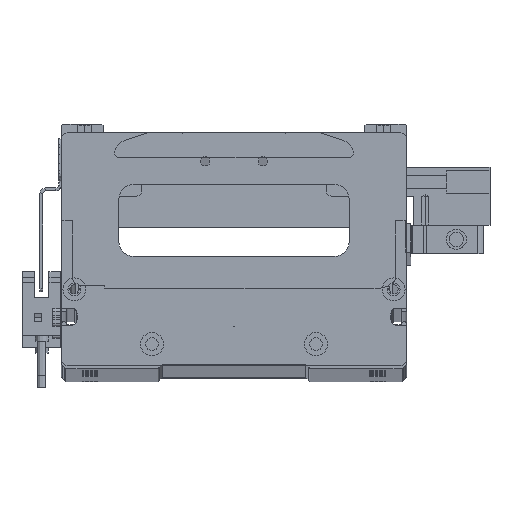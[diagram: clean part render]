
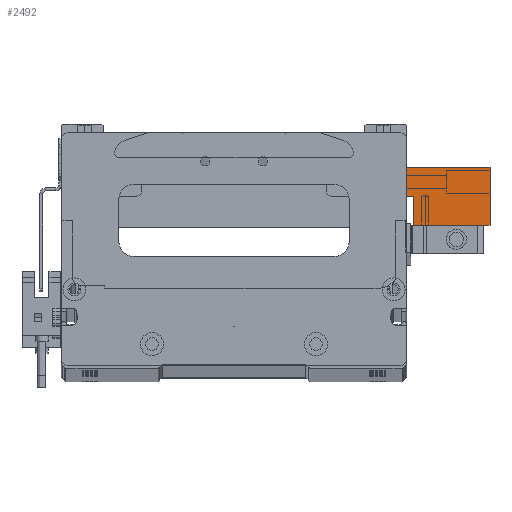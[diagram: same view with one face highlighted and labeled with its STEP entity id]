
A CAD part, top view. The second image highlights one B-rep face of the part: STEP entity #2492.
In plain terms, the highlighted planar face has unit normal (0, 0, 1) as drawn and (-1, 0, 0) by its records, which use the part's own axes.
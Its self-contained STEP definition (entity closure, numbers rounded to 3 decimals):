
#726 = VERTEX_POINT ( 'NONE', #15081 ) ;
#1712 = CARTESIAN_POINT ( 'NONE',  ( -130.52, 35.063, 10. ) ) ;
#1960 = EDGE_CURVE ( 'NONE', #10334, #31500, #5916, .T. ) ;
#2106 = VECTOR ( 'NONE', #7919, 1000. ) ;
#2492 = ADVANCED_FACE ( 'NONE', ( #10337 ), #6637, .F. ) ;
#2596 = VECTOR ( 'NONE', #15806, 1000. ) ;
#3645 = EDGE_CURVE ( 'NONE', #20110, #31500, #19656, .T. ) ;
#5343 = CARTESIAN_POINT ( 'NONE',  ( -130.52, 64.063, 0. ) ) ;
#5419 = LINE ( 'NONE', #28503, #2596 ) ;
#5916 = LINE ( 'NONE', #8644, #32560 ) ;
#6637 = PLANE ( 'NONE',  #32211 ) ;
#7919 = DIRECTION ( 'NONE',  ( 0., -1., 0. ) ) ;
#8134 = VECTOR ( 'NONE', #9036, 1000. ) ;
#8644 = CARTESIAN_POINT ( 'NONE',  ( -130.52, 64.063, 20. ) ) ;
#9036 = DIRECTION ( 'NONE',  ( 0., 0., -1. ) ) ;
#9637 = DIRECTION ( 'NONE',  ( 0., 0., 1. ) ) ;
#9762 = LINE ( 'NONE', #5343, #2106 ) ;
#10334 = VERTEX_POINT ( 'NONE', #29869 ) ;
#10337 = FACE_OUTER_BOUND ( 'NONE', #30271, .T. ) ;
#10883 = ORIENTED_EDGE ( 'NONE', *, *, #22411, .T. ) ;
#12911 = VECTOR ( 'NONE', #32085, 1000. ) ;
#14342 = CARTESIAN_POINT ( 'NONE',  ( -130.52, 35.063, 20. ) ) ;
#15077 = CARTESIAN_POINT ( 'NONE',  ( -130.52, 37.563, 10. ) ) ;
#15081 = CARTESIAN_POINT ( 'NONE',  ( -130.52, 35.063, 0. ) ) ;
#15806 = DIRECTION ( 'NONE',  ( 0., -1., 0. ) ) ;
#16249 = CARTESIAN_POINT ( 'NONE',  ( -130.52, 37.563, 20. ) ) ;
#16569 = LINE ( 'NONE', #27024, #12911 ) ;
#16618 = ORIENTED_EDGE ( 'NONE', *, *, #21110, .F. ) ;
#17045 = DIRECTION ( 'NONE',  ( 0., 0., -1. ) ) ;
#17314 = ORIENTED_EDGE ( 'NONE', *, *, #33144, .T. ) ;
#18195 = ORIENTED_EDGE ( 'NONE', *, *, #3645, .T. ) ;
#18832 = DIRECTION ( 'NONE',  ( 0., -1., 0. ) ) ;
#19656 = LINE ( 'NONE', #22638, #27283 ) ;
#20110 = VERTEX_POINT ( 'NONE', #15077 ) ;
#20841 = VERTEX_POINT ( 'NONE', #1712 ) ;
#21110 = EDGE_CURVE ( 'NONE', #20110, #20841, #5419, .T. ) ;
#22327 = CARTESIAN_POINT ( 'NONE',  ( -130.52, 64.063, 20. ) ) ;
#22411 = EDGE_CURVE ( 'NONE', #24233, #726, #9762, .T. ) ;
#22580 = EDGE_CURVE ( 'NONE', #20841, #726, #30774, .T. ) ;
#22638 = CARTESIAN_POINT ( 'NONE',  ( -130.52, 37.563, 10. ) ) ;
#23158 = ORIENTED_EDGE ( 'NONE', *, *, #22580, .F. ) ;
#24233 = VERTEX_POINT ( 'NONE', #33321 ) ;
#27024 = CARTESIAN_POINT ( 'NONE',  ( -130.52, 64.063, 20. ) ) ;
#27283 = VECTOR ( 'NONE', #9637, 1000. ) ;
#27390 = DIRECTION ( 'NONE',  ( 1., 0., 0. ) ) ;
#28014 = ORIENTED_EDGE ( 'NONE', *, *, #1960, .F. ) ;
#28503 = CARTESIAN_POINT ( 'NONE',  ( -130.52, 35.063, 10. ) ) ;
#29869 = CARTESIAN_POINT ( 'NONE',  ( -130.52, 64.063, 20. ) ) ;
#30271 = EDGE_LOOP ( 'NONE', ( #16618, #18195, #28014, #17314, #10883, #23158 ) ) ;
#30774 = LINE ( 'NONE', #14342, #8134 ) ;
#31500 = VERTEX_POINT ( 'NONE', #16249 ) ;
#32085 = DIRECTION ( 'NONE',  ( 0., 0., -1. ) ) ;
#32211 = AXIS2_PLACEMENT_3D ( 'NONE', #22327, #27390, #17045 ) ;
#32560 = VECTOR ( 'NONE', #18832, 1000. ) ;
#33144 = EDGE_CURVE ( 'NONE', #10334, #24233, #16569, .T. ) ;
#33321 = CARTESIAN_POINT ( 'NONE',  ( -130.52, 64.063, 0. ) ) ;
